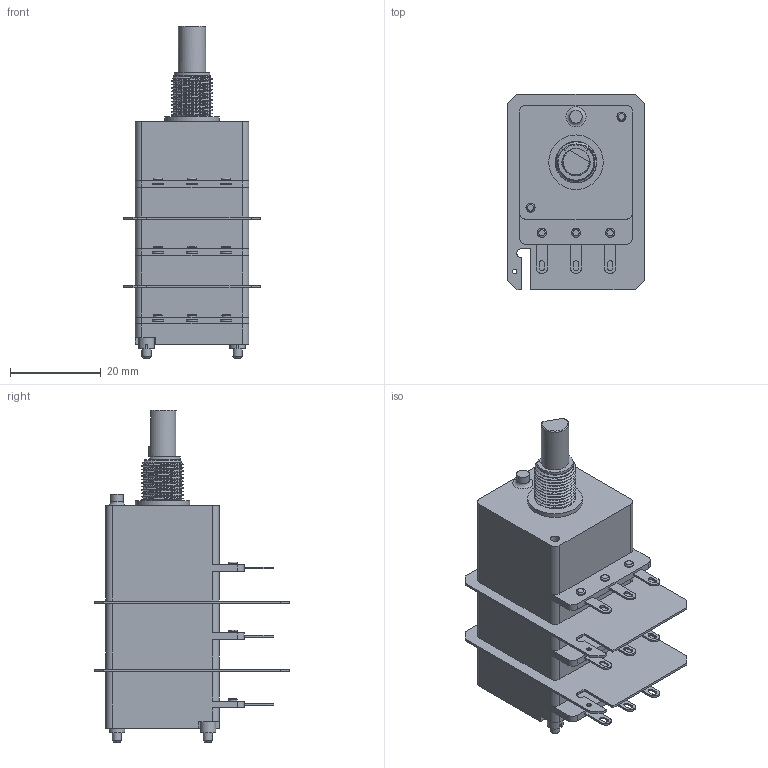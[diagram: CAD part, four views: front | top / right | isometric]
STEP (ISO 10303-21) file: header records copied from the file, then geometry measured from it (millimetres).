
FILE_DESCRIPTION(('FreeCAD Model'),'2;1');
FILE_NAME('Open CASCADE Shape Model','2026-07-14T16:56:08',(''),(''), 'Open CASCADE STEP processor 7.8','FreeCAD','Unknown');
FILE_SCHEMA(('AUTOMOTIVE_DESIGN { 1 0 10303 214 1 1 1 1 }'));
Length unit declared in the file: millimetre
Products named in the file (1): 3CP25XX-S-6F20
Bounding box: 30 x 43 x 73 mm (x, y, z)
Volume: 32386.2 mm3; surface area: 12285.1 mm2
Topology: 1 solids, 20 shells, 403 faces, 933 edges, 611 vertices
Faces by surface type: plane 220, cylinder 127, bspline 38, torus 12, cone 6
Full cylindrical faces by diameter (mm): 1 x2, 1.9 x10, 2 x25, 2.2 x14, 2.8 x1, 3.5 x2, 4.5 x3, 5.4 x1, 6 x1, 6.05 x1, 8 x1, 9 x2, 12 x1
Entity records: 18238 total; most frequent: CARTESIAN_POINT 6294, DIRECTION 1904, ORIENTED_EDGE 1864, EDGE_CURVE 932, AXIS2_PLACEMENT_3D 710, VERTEX_POINT 611, FACE_BOUND 485, EDGE_LOOP 485
